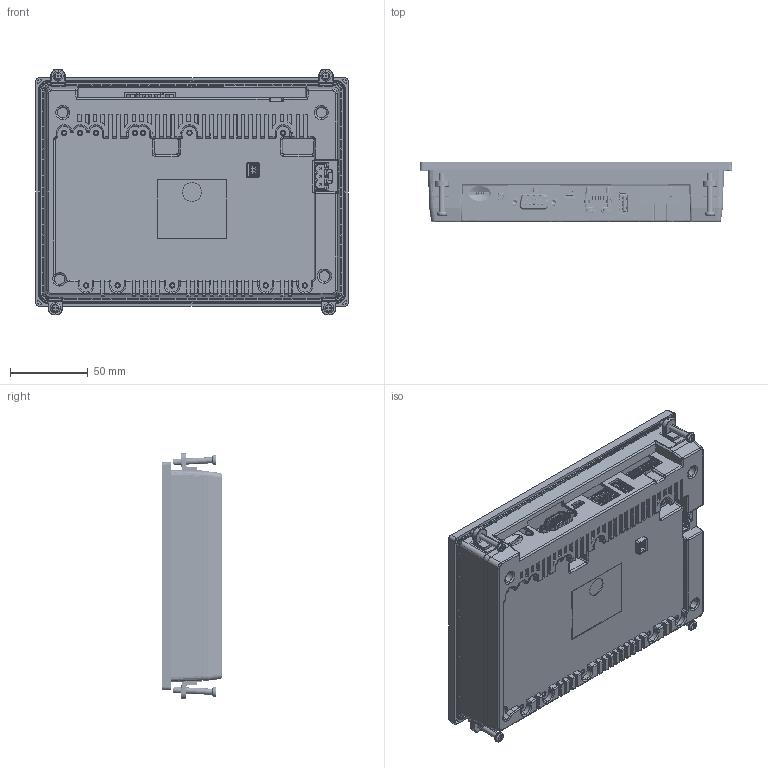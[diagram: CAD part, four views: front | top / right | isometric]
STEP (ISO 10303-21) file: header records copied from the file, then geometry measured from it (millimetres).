
FILE_DESCRIPTION (( 'STEP AP214' ), '1' );
FILE_NAME ('hmi-070-new_asm.STEP', '2021-07-23T13:22:07', ( '' ), ( '' ), 'SwSTEP 2.0', 'SolidWorks 2021', '' );
FILE_SCHEMA (( 'AUTOMOTIVE_DESIGN' ));
Length unit declared in the file: millimetre
Products named in the file (1): hmi-070-new_asm
Bounding box: 200.52 x 38.3 x 157.78 mm (x, y, z)
Volume: 845874.9 mm3; surface area: 137709.1 mm2
Topology: 20 solids, 37 shells, 8550 faces, 24073 edges, 15293 vertices
Faces by surface type: bspline 8545, plane 5
Entity records: 333071 total; most frequent: CARTESIAN_POINT 117661, ORIENTED_EDGE 47794, DIRECTION 24710, EDGE_CURVE 23897, LINE 16396, VECTOR 16396, VERTEX_POINT 15292, EDGE_LOOP 8995
